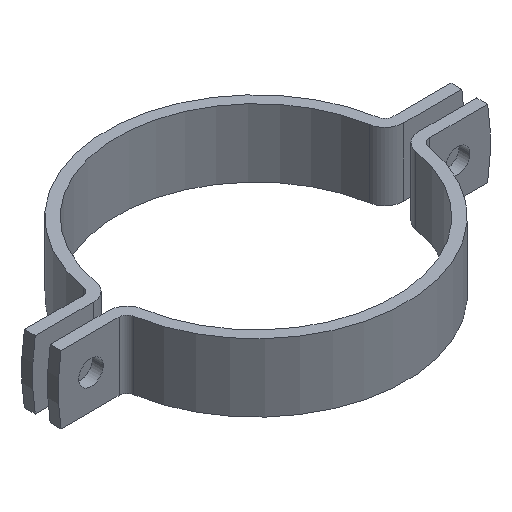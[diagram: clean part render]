
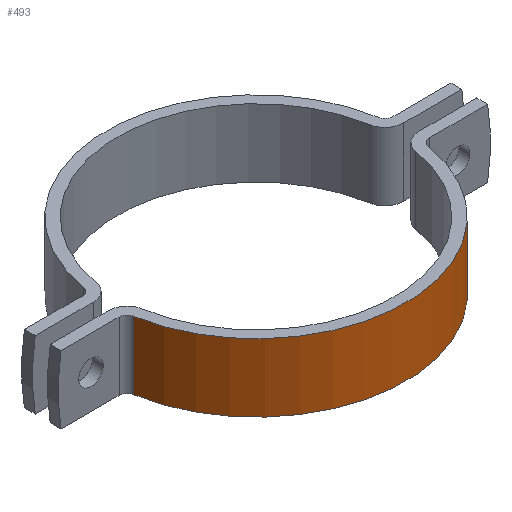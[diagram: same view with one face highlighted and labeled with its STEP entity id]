
A CAD part, isometric view. The second image highlights one B-rep face of the part: STEP entity #493.
In plain terms, the highlighted cylindrical face has radius 110 mm (diameter 220 mm), a partial arc.
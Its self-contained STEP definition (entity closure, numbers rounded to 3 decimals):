
#43 = CARTESIAN_POINT ( 'NONE',  ( 0., 0., -50. ) ) ;
#107 = EDGE_CURVE ( 'NONE', #789, #441, #397, .T. ) ;
#156 = CARTESIAN_POINT ( 'NONE',  ( 108.435, -18.491, -50. ) ) ;
#168 = VERTEX_POINT ( 'NONE', #552 ) ;
#211 = ORIENTED_EDGE ( 'NONE', *, *, #854, .F. ) ;
#256 = DIRECTION ( 'NONE',  ( 0., 0., 1. ) ) ;
#301 = CARTESIAN_POINT ( 'NONE',  ( -108.435, -18.491, -50. ) ) ;
#306 = ORIENTED_EDGE ( 'NONE', *, *, #1203, .T. ) ;
#362 = VECTOR ( 'NONE', #544, 1000. ) ;
#397 = CIRCLE ( 'NONE', #517, 110. ) ;
#402 = CIRCLE ( 'NONE', #823, 110. ) ;
#417 = EDGE_LOOP ( 'NONE', ( #1225, #211, #653, #306 ) ) ;
#421 = VECTOR ( 'NONE', #516, 1000. ) ;
#441 = VERTEX_POINT ( 'NONE', #980 ) ;
#442 = CARTESIAN_POINT ( 'NONE',  ( 0., 0., 0. ) ) ;
#493 = ADVANCED_FACE ( 'NONE', ( #852 ), #837, .T. ) ;
#498 = AXIS2_PLACEMENT_3D ( 'NONE', #1228, #532, #1119 ) ;
#516 = DIRECTION ( 'NONE',  ( 0., 0., 1. ) ) ;
#517 = AXIS2_PLACEMENT_3D ( 'NONE', #442, #256, #827 ) ;
#532 = DIRECTION ( 'NONE',  ( 0., 0., 1. ) ) ;
#544 = DIRECTION ( 'NONE',  ( 0., 0., 1. ) ) ;
#552 = CARTESIAN_POINT ( 'NONE',  ( 108.435, -18.491, -50. ) ) ;
#636 = CARTESIAN_POINT ( 'NONE',  ( -108.435, -18.491, 0. ) ) ;
#653 = ORIENTED_EDGE ( 'NONE', *, *, #829, .T. ) ;
#709 = LINE ( 'NONE', #156, #421 ) ;
#789 = VERTEX_POINT ( 'NONE', #636 ) ;
#823 = AXIS2_PLACEMENT_3D ( 'NONE', #43, #1196, #1012 ) ;
#827 = DIRECTION ( 'NONE',  ( 1., 0., 0. ) ) ;
#829 = EDGE_CURVE ( 'NONE', #1167, #168, #402, .T. ) ;
#837 = CYLINDRICAL_SURFACE ( 'NONE', #498, 110. ) ;
#852 = FACE_OUTER_BOUND ( 'NONE', #417, .T. ) ;
#854 = EDGE_CURVE ( 'NONE', #1167, #789, #1114, .T. ) ;
#980 = CARTESIAN_POINT ( 'NONE',  ( 108.435, -18.491, 0. ) ) ;
#1012 = DIRECTION ( 'NONE',  ( 1., 0., 0. ) ) ;
#1020 = CARTESIAN_POINT ( 'NONE',  ( -108.435, -18.491, -50. ) ) ;
#1114 = LINE ( 'NONE', #1020, #362 ) ;
#1119 = DIRECTION ( 'NONE',  ( 1., 0., 0. ) ) ;
#1167 = VERTEX_POINT ( 'NONE', #301 ) ;
#1196 = DIRECTION ( 'NONE',  ( 0., 0., 1. ) ) ;
#1203 = EDGE_CURVE ( 'NONE', #168, #441, #709, .T. ) ;
#1225 = ORIENTED_EDGE ( 'NONE', *, *, #107, .F. ) ;
#1228 = CARTESIAN_POINT ( 'NONE',  ( 0., 0., -50. ) ) ;
